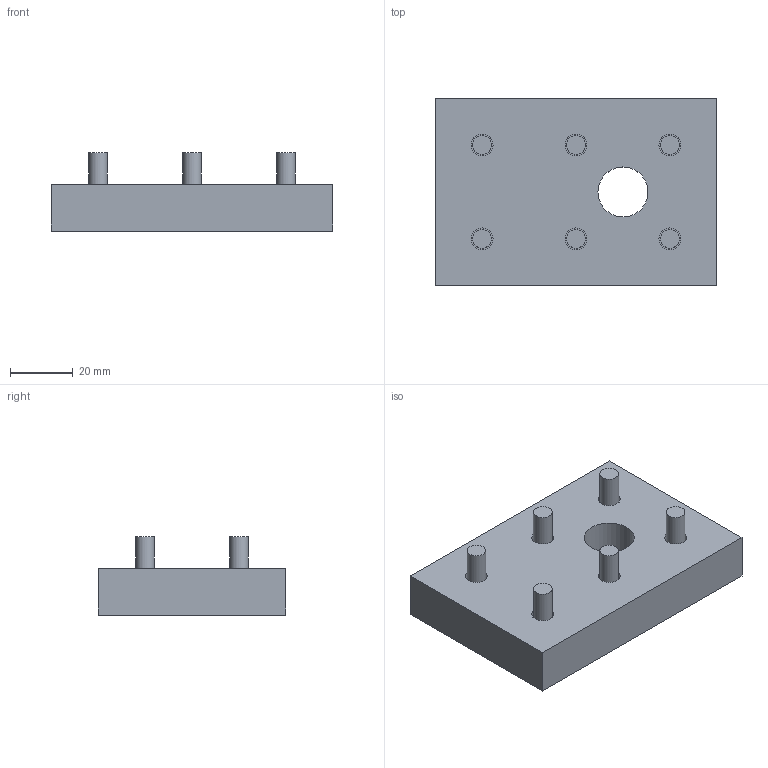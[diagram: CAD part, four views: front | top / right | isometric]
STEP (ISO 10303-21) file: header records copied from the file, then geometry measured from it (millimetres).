
FILE_DESCRIPTION((''),'2;1');
FILE_NAME('C:\Documents and Settings\古川典政\My Documents\Inventor\HP用\MasterData\ACCESSORY\M6\LFA-6090-6.stp','2008-08-05T14:44:45',(''),(''),'Autodesk Inventor 2008','Autodesk Inventor 2008','');
FILE_SCHEMA(('CONFIG_CONTROL_DESIGN'));
Length unit declared in the file: millimetre
Products named in the file (8): LFA-6090-6; LFA-6090-61; LFA-6090-62; LFA-6090-63; LFA-6090-64; LFA-6090-65; LFA-6090-66; LFA-6090-67
Assembly tree (7 placements, depth 2):
  LFA-6090-6
    LFA-6090-61
    LFA-6090-62
    LFA-6090-63
    LFA-6090-64
    LFA-6090-65
    LFA-6090-66
    LFA-6090-67
Bounding box: 90 x 60 x 25 mm (x, y, z)
Volume: 78029 mm3; surface area: 21805.4 mm2
Topology: 7 solids, 7 shells, 55 faces, 88 edges, 59 vertices
Faces by surface type: plane 24, bspline 19, cylinder 12
Full cylindrical faces by diameter (mm): 6 x6, 10 x6
Entity records: 1560 total; most frequent: CARTESIAN_POINT 429, DIRECTION 214, ORIENTED_EDGE 124, EDGE_LOOP 106, AXIS2_PLACEMENT_3D 101, EDGE_CURVE 62, VERTEX_POINT 58, FACE_OUTER_BOUND 55
